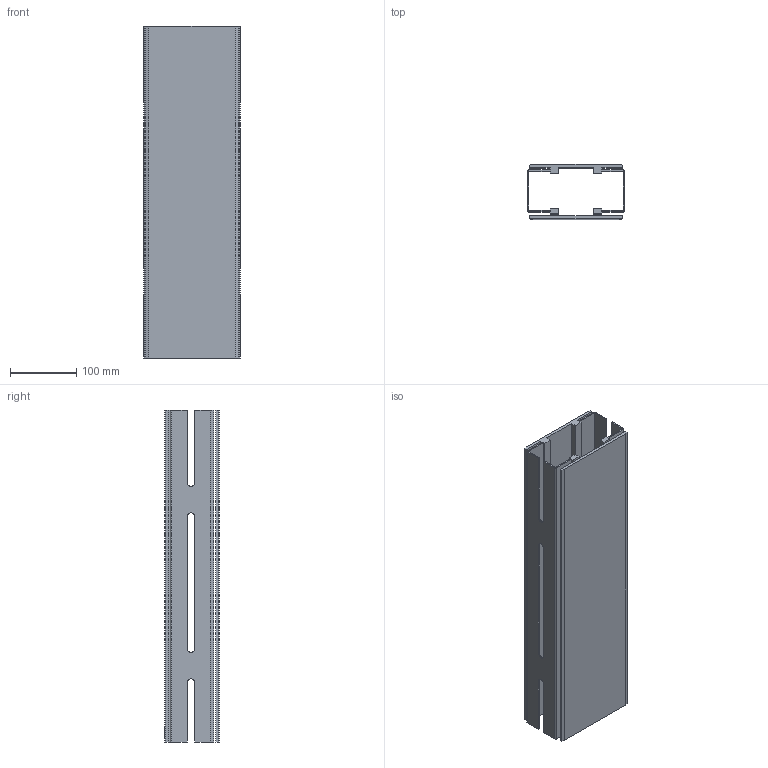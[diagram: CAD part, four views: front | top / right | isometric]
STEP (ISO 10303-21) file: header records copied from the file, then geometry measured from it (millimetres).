
FILE_DESCRIPTION(/* description */ ('RAKBANA SERIE 540'),/* implementation_level */ '2;1');
FILE_NAME(/* name */ '540-1000+140-2000-01.stp',/* time_stamp */ '2022-09-21T07:58:20+02:00',/* author */ ('Mathias.Dore'),/* organization */ ('CARRYLINE'),/* preprocessor_version */ 'ST-DEVELOPER v19.2',/* originating_system */ 'Autodesk Inventor 2023',/* authorisation */ '');
FILE_SCHEMA (('AUTOMOTIVE_DESIGN { 1 0 10303 214 3 1 1 }'));
Length unit declared in the file: millimetre
Products named in the file (1): 540-1000+140-2000-01
Bounding box: 146 x 82 x 500 mm (x, y, z)
Volume: 1129007.9 mm3; surface area: 583179.1 mm2
Topology: 2 solids, 2 shells, 111 faces, 306 edges, 204 vertices
Faces by surface type: plane 85, bspline 14, cylinder 12
Entity records: 3665 total; most frequent: CARTESIAN_POINT 816, ORIENTED_EDGE 612, DIRECTION 498, EDGE_CURVE 306, LINE 254, VECTOR 254, VERTEX_POINT 204, AXIS2_PLACEMENT_3D 122
